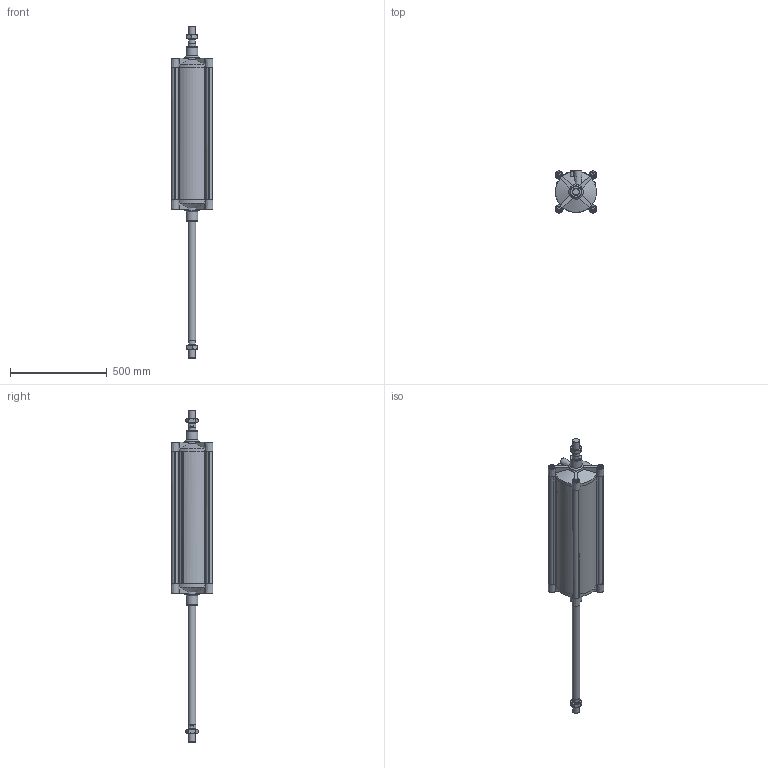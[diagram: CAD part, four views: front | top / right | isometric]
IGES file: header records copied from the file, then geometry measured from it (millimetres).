
Global section: file name: 139#_200_0600_02; native system: Autodesk Inventor 2014; preprocessor: unknown; author: F. Piloni; organization: Pneumax S.p.A.; date: 20151120.143259; units: millimetre
Bounding box: 216 x 216 x 1714 mm (x, y, z)
Volume: 11222018.3 mm3; surface area: 2010613.7 mm2
Topology: 6 solids, 6 shells, 324 faces, 844 edges, 567 vertices
Faces by surface type: bspline 324
